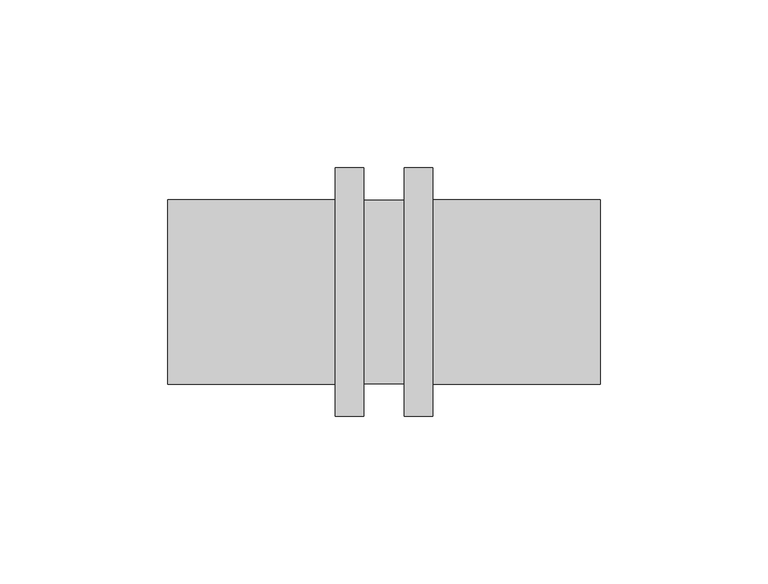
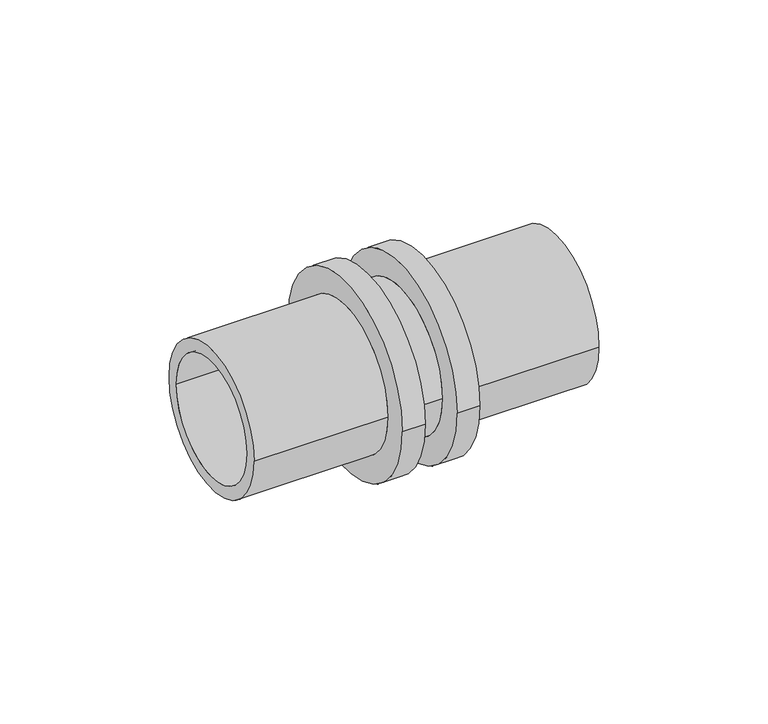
"""IFC4 building model written with IfcOpenShell, lengths in millimetres: pipe fitting geometry, RAUTITAN_Union_RX+ stabil : RTI RX+ stabil U DE."""

from ifc_helpers import new_model, si_unit, frame, origin, place, context, project, spatial, polyline, circle_curve, source, transform, mapped, element, save
from ifc_brep_helpers import plane_surface, cylinder_surface, revolved_surface, advanced_brep


def pipe_fitting_080a5288(model_context):
    return source(origin(), model_context, "Body", "AdvancedBrep", [
        advanced_brep(
        [(-64.5, 22.75, 0.0), (-64.5, -22.75, 0.0), (64.5, -22.75, 0.0), (64.5, 22.75, 0.0), (-14.5, 27.55, 0.0), (-14.5, -27.55, 0.0), (-64.5, -27.55, 0.0), (-64.5, 27.55, 0.0), (-6.0, 37.05, 0.0), (-6.0, -37.05, 0.0), (-14.5, -37.05, 0.0), (-14.5, 37.05, 0.0), (6.0, 27.35, 0.0), (6.0, -27.35, 0.0), (-6.0, -27.35, 0.0), (-6.0, 27.35, 0.0), (14.5, 37.05, 0.0), (14.5, -37.05, 0.0), (6.0, -37.05, 0.0), (6.0, 37.05, 0.0), (64.5, 27.55, 0.0), (64.5, -27.55, 0.0), (14.5, -27.55, 0.0), (14.5, 27.55, 0.0)],
        [
            (0, 1, circle_curve(frame((-64.5, 0.0, 0.0), z_axis=(-1.0, 0.0, 0.0), x_axis=(0.0, -1.0, 0.0)), 22.75)),
            (1, 2),
            (2, 3, circle_curve(frame((64.5, 0.0, 0.0), z_axis=(1.0, 0.0, 0.0), x_axis=(0.0, -1.0, 0.0)), 22.75)),
            (3, 0),
            (4, 5, circle_curve(frame((-14.5, 0.0, 0.0), z_axis=(-1.0, 0.0, 0.0), x_axis=(0.0, -1.0, 0.0)), 27.55)),
            (5, 6),
            (6, 7, circle_curve(frame((-64.5, 0.0, 0.0), z_axis=(1.0, 0.0, 0.0), x_axis=(0.0, -1.0, 0.0)), 27.55)),
            (7, 4),
            (8, 9, circle_curve(frame((-6.0, 0.0, 0.0), z_axis=(-1.0, 0.0, 0.0), x_axis=(0.0, -1.0, 0.0)), 37.05)),
            (9, 10),
            (10, 11, circle_curve(frame((-14.5, 0.0, 0.0), z_axis=(1.0, 0.0, 0.0), x_axis=(0.0, -1.0, 0.0)), 37.05)),
            (11, 8),
            (12, 13, circle_curve(frame((6.0, 0.0, 0.0), z_axis=(-1.0, 0.0, 0.0), x_axis=(0.0, -1.0, 0.0)), 27.35)),
            (13, 14),
            (14, 15, circle_curve(frame((-6.0, 0.0, 0.0), z_axis=(1.0, 0.0, 0.0), x_axis=(0.0, -1.0, 0.0)), 27.35)),
            (15, 12),
            (16, 17, circle_curve(frame((14.5, 0.0, 0.0), z_axis=(-1.0, 0.0, 0.0), x_axis=(0.0, -1.0, 0.0)), 37.05)),
            (17, 18),
            (18, 19, circle_curve(frame((6.0, 0.0, 0.0), z_axis=(1.0, 0.0, 0.0), x_axis=(0.0, -1.0, 0.0)), 37.05)),
            (19, 16),
            (20, 21, circle_curve(frame((64.5, 0.0, 0.0), z_axis=(-1.0, 0.0, 0.0), x_axis=(0.0, -1.0, 0.0)), 27.55)),
            (21, 22),
            (22, 23, circle_curve(frame((14.5, 0.0, 0.0), z_axis=(1.0, 0.0, 0.0), x_axis=(0.0, -1.0, 0.0)), 27.55)),
            (23, 20),
            (1, 0, circle_curve(frame((-64.5, 0.0, 0.0), z_axis=(-1.0, 0.0, 0.0), x_axis=(0.0, 1.0, 0.0)), 22.75)),
            (3, 2, circle_curve(frame((64.5, 0.0, 0.0), z_axis=(1.0, 0.0, 0.0), x_axis=(0.0, 1.0, 0.0)), 22.75)),
            (6, 7, circle_curve(frame((-64.5, 0.0, 0.0), z_axis=(-1.0, 0.0, 0.0), x_axis=(0.0, 1.0, 0.0)), 27.55)),
            (5, 4, circle_curve(frame((-14.5, 0.0, 0.0), z_axis=(-1.0, 0.0, 0.0), x_axis=(0.0, 1.0, 0.0)), 27.55)),
            (10, 11, circle_curve(frame((-14.5, 0.0, 0.0), z_axis=(-1.0, 0.0, 0.0), x_axis=(0.0, 1.0, 0.0)), 37.05)),
            (9, 8, circle_curve(frame((-6.0, 0.0, 0.0), z_axis=(-1.0, 0.0, 0.0), x_axis=(0.0, 1.0, 0.0)), 37.05)),
            (14, 15, circle_curve(frame((-6.0, 0.0, 0.0), z_axis=(-1.0, 0.0, 0.0), x_axis=(0.0, 1.0, 0.0)), 27.35)),
            (13, 12, circle_curve(frame((6.0, 0.0, 0.0), z_axis=(-1.0, 0.0, 0.0), x_axis=(0.0, 1.0, 0.0)), 27.35)),
            (18, 19, circle_curve(frame((6.0, 0.0, 0.0), z_axis=(-1.0, 0.0, 0.0), x_axis=(0.0, 1.0, 0.0)), 37.05)),
            (17, 16, circle_curve(frame((14.5, 0.0, 0.0), z_axis=(-1.0, 0.0, 0.0), x_axis=(0.0, 1.0, 0.0)), 37.05)),
            (22, 23, circle_curve(frame((14.5, 0.0, 0.0), z_axis=(-1.0, 0.0, 0.0), x_axis=(0.0, 1.0, 0.0)), 27.55)),
            (21, 20, circle_curve(frame((64.5, 0.0, 0.0), z_axis=(-1.0, 0.0, 0.0), x_axis=(0.0, 1.0, 0.0)), 27.55)),
        ],
        [
            revolved_surface(polyline([(64.5, -22.75, 0.0), (-64.5, -22.75, 0.0)]), (0.0, 0.0, 0.0), (1.0, 0.0, 0.0)),
            cylinder_surface(frame((0.0, 0.0, 0.0), z_axis=(1.0, 0.0, 0.0), x_axis=(0.0, -1.0, 0.0)), 27.55),
            cylinder_surface(frame((0.0, 0.0, 0.0), z_axis=(1.0, 0.0, 0.0), x_axis=(0.0, -1.0, 0.0)), 37.05),
            cylinder_surface(frame((0.0, 0.0, 0.0), z_axis=(1.0, 0.0, 0.0), x_axis=(0.0, -1.0, 0.0)), 27.35),
            revolved_surface(polyline([(64.5, 22.75, 0.0), (-64.5, 22.75, 0.0)]), (0.0, 0.0, 0.0), (1.0, 0.0, 0.0)),
            plane_surface(frame((-64.5, 0.0, 0.0), z_axis=(-1.0, 0.0, 0.0), x_axis=(0.0, 1.0, 0.0))),
            cylinder_surface(frame((0.0, 0.0, 0.0), z_axis=(1.0, 0.0, 0.0), x_axis=(0.0, 1.0, 0.0)), 27.55),
            plane_surface(frame((-14.5, 0.0, 0.0), z_axis=(-1.0, 0.0, 0.0), x_axis=(0.0, 1.0, 0.0))),
            cylinder_surface(frame((0.0, 0.0, 0.0), z_axis=(1.0, 0.0, 0.0), x_axis=(0.0, 1.0, 0.0)), 37.05),
            plane_surface(frame((-6.0, 0.0, 0.0), z_axis=(1.0, 0.0, 0.0), x_axis=(0.0, 1.0, 0.0))),
            cylinder_surface(frame((0.0, 0.0, 0.0), z_axis=(1.0, 0.0, 0.0), x_axis=(0.0, 1.0, 0.0)), 27.35),
            plane_surface(frame((6.0, 0.0, 0.0), z_axis=(-1.0, 0.0, 0.0), x_axis=(0.0, 1.0, 0.0))),
            plane_surface(frame((14.5, 0.0, 0.0), z_axis=(1.0, 0.0, 0.0), x_axis=(0.0, 1.0, 0.0))),
            plane_surface(frame((64.5, 0.0, 0.0), z_axis=(1.0, 0.0, 0.0), x_axis=(0.0, 1.0, 0.0))),
        ],
        [
            (0, [[1, 2, 3, 4]]),
            (1, [[5, 6, 7, 8]]),
            (2, [[9, 10, 11, 12]]),
            (3, [[13, 14, 15, 16]]),
            (2, [[17, 18, 19, 20]]),
            (1, [[21, 22, 23, 24]]),
            (4, [[25, -4, 26, -2]]),
            (5, [[27, -7], [-25, -1]]),
            (6, [[28, -8, -27, -6]]),
            (7, [[29, -11], [-28, -5]]),
            (8, [[30, -12, -29, -10]]),
            (9, [[-30, -9], [31, -15]]),
            (10, [[32, -16, -31, -14]]),
            (11, [[33, -19], [-32, -13]]),
            (8, [[34, -20, -33, -18]]),
            (12, [[-34, -17], [35, -23]]),
            (6, [[36, -24, -35, -22]]),
            (13, [[-36, -21], [-26, -3]]),
        ],
    ),
    ])


if __name__ == "__main__":
    model = new_model("IFC4")
    model_context = context("Model", 3, world=origin())
    ifc_project = project(units=[si_unit("LENGTHUNIT", "METRE", prefix="MILLI")], contexts=[model_context])
    site = spatial("IfcSite", under=ifc_project)
    building = spatial("IfcBuilding", under=site)
    placement = place(None, origin())
    pipe_fitting_shape = pipe_fitting_080a5288(model_context)
    element("IfcPipeFitting", 1, ObjectType="RAUTITAN_Union_RX+ stabil : RTI RX+ stabil U DE", at=placement, inside=building, context=model_context, shape_type="MappedRepresentation", body=[
        mapped(pipe_fitting_shape, transform((0.0, 0.0, 0.0), x_axis=(1.0, 0.0, 0.0), y_axis=(0.0, 1.0, 0.0), z_axis=(0.0, 0.0, 1.0))),
    ])
    save(model, "model.ifc")
